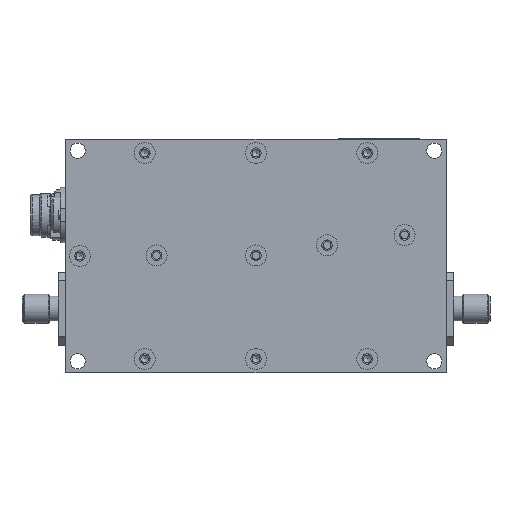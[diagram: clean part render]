
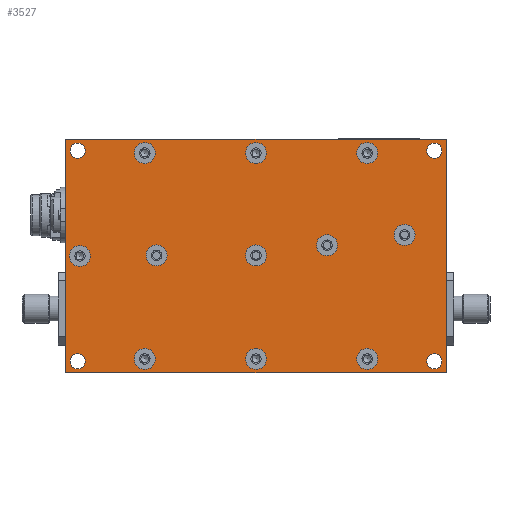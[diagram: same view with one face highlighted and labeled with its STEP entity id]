
A CAD part, front view. The second image highlights one B-rep face of the part: STEP entity #3527.
In plain terms, the highlighted planar face has unit normal (0, -1, 0).
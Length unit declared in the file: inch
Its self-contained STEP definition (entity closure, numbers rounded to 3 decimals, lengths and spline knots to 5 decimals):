
#2209=CARTESIAN_POINT('',(-1.625,-0.03,-1.0));
#2210=VERTEX_POINT('',#2209);
#2217=CARTESIAN_POINT('',(-1.625,-0.03,1.0));
#2218=VERTEX_POINT('',#2217);
#2219=CARTESIAN_POINT('',(-1.625,-0.03,1.0));
#2220=DIRECTION('',(0.0,0.0,-1.0));
#2221=VECTOR('',#2220,2.0);
#2222=LINE('',#2219,#2221);
#2223=EDGE_CURVE('',#2218,#2210,#2222,.T.);
#2258=CARTESIAN_POINT('',(1.625,-0.03,1.0));
#2259=VERTEX_POINT('',#2258);
#2266=CARTESIAN_POINT('',(1.625,-0.03,-1.0));
#2267=VERTEX_POINT('',#2266);
#2268=CARTESIAN_POINT('',(1.625,-0.03,-1.0));
#2269=DIRECTION('',(0.0,0.0,1.0));
#2270=VECTOR('',#2269,2.0);
#2271=LINE('',#2268,#2270);
#2272=EDGE_CURVE('',#2267,#2259,#2271,.T.);
#2934=CARTESIAN_POINT('',(0.09,-0.03,-0.88));
#2935=VERTEX_POINT('',#2934);
#2936=CARTESIAN_POINT('',(0.,-0.03,-0.88));
#2937=DIRECTION('',(0.0,1.0,0.0));
#2938=DIRECTION('',(1.0,0.0,0.0));
#2939=AXIS2_PLACEMENT_3D('',#2936,#2937,#2938);
#2940=CIRCLE('',#2939,0.09);
#2941=EDGE_CURVE('',#2935,#2935,#2940,.T.);
#2982=CARTESIAN_POINT('',(-1.415,-0.03,0.0));
#2983=VERTEX_POINT('',#2982);
#2984=CARTESIAN_POINT('',(-1.505,-0.03,0.0));
#2985=DIRECTION('',(0.0,1.0,0.0));
#2986=DIRECTION('',(1.0,0.0,0.0));
#2987=AXIS2_PLACEMENT_3D('',#2984,#2985,#2986);
#2988=CIRCLE('',#2987,0.09);
#2989=EDGE_CURVE('',#2983,#2983,#2988,.T.);
#3030=CARTESIAN_POINT('',(0.09,-0.03,0.005));
#3031=VERTEX_POINT('',#3030);
#3032=CARTESIAN_POINT('',(0.0,-0.03,0.005));
#3033=DIRECTION('',(0.0,1.0,0.0));
#3034=DIRECTION('',(1.0,0.0,0.0));
#3035=AXIS2_PLACEMENT_3D('',#3032,#3033,#3034);
#3036=CIRCLE('',#3035,0.09);
#3037=EDGE_CURVE('',#3031,#3031,#3036,.T.);
#3078=CARTESIAN_POINT('',(1.36,-0.03,0.18));
#3079=VERTEX_POINT('',#3078);
#3080=CARTESIAN_POINT('',(1.27,-0.03,0.18));
#3081=DIRECTION('',(0.0,1.0,0.0));
#3082=DIRECTION('',(1.0,0.0,0.0));
#3083=AXIS2_PLACEMENT_3D('',#3080,#3081,#3082);
#3084=CIRCLE('',#3083,0.09);
#3085=EDGE_CURVE('',#3079,#3079,#3084,.T.);
#3126=CARTESIAN_POINT('',(0.09,-0.03,0.88));
#3127=VERTEX_POINT('',#3126);
#3128=CARTESIAN_POINT('',(0.0,-0.03,0.88));
#3129=DIRECTION('',(0.0,1.0,0.0));
#3130=DIRECTION('',(1.0,0.0,0.0));
#3131=AXIS2_PLACEMENT_3D('',#3128,#3129,#3130);
#3132=CIRCLE('',#3131,0.09);
#3133=EDGE_CURVE('',#3127,#3127,#3132,.T.);
#3174=CARTESIAN_POINT('',(-0.86,-0.03,0.88));
#3175=VERTEX_POINT('',#3174);
#3176=CARTESIAN_POINT('',(-0.95,-0.03,0.88));
#3177=DIRECTION('',(0.0,1.0,0.0));
#3178=DIRECTION('',(1.0,0.0,0.0));
#3179=AXIS2_PLACEMENT_3D('',#3176,#3177,#3178);
#3180=CIRCLE('',#3179,0.09);
#3181=EDGE_CURVE('',#3175,#3175,#3180,.T.);
#3222=CARTESIAN_POINT('',(1.04,-0.03,0.88));
#3223=VERTEX_POINT('',#3222);
#3224=CARTESIAN_POINT('',(0.95,-0.03,0.88));
#3225=DIRECTION('',(0.0,1.0,0.0));
#3226=DIRECTION('',(1.0,0.0,0.0));
#3227=AXIS2_PLACEMENT_3D('',#3224,#3225,#3226);
#3228=CIRCLE('',#3227,0.09);
#3229=EDGE_CURVE('',#3223,#3223,#3228,.T.);
#3270=CARTESIAN_POINT('',(0.697,-0.03,0.0925));
#3271=VERTEX_POINT('',#3270);
#3272=CARTESIAN_POINT('',(0.607,-0.03,0.0925));
#3273=DIRECTION('',(0.0,1.0,0.0));
#3274=DIRECTION('',(1.0,0.0,0.0));
#3275=AXIS2_PLACEMENT_3D('',#3272,#3273,#3274);
#3276=CIRCLE('',#3275,0.09);
#3277=EDGE_CURVE('',#3271,#3271,#3276,.T.);
#3318=CARTESIAN_POINT('',(-0.76,-0.03,0.005));
#3319=VERTEX_POINT('',#3318);
#3320=CARTESIAN_POINT('',(-0.85,-0.03,0.005));
#3321=DIRECTION('',(0.0,1.0,0.0));
#3322=DIRECTION('',(1.0,0.0,0.0));
#3323=AXIS2_PLACEMENT_3D('',#3320,#3321,#3322);
#3324=CIRCLE('',#3323,0.09);
#3325=EDGE_CURVE('',#3319,#3319,#3324,.T.);
#3366=CARTESIAN_POINT('',(-0.86,-0.03,-0.88));
#3367=VERTEX_POINT('',#3366);
#3368=CARTESIAN_POINT('',(-0.95,-0.03,-0.88));
#3369=DIRECTION('',(0.0,1.0,0.0));
#3370=DIRECTION('',(1.0,0.0,0.0));
#3371=AXIS2_PLACEMENT_3D('',#3368,#3369,#3370);
#3372=CIRCLE('',#3371,0.09);
#3373=EDGE_CURVE('',#3367,#3367,#3372,.T.);
#3414=CARTESIAN_POINT('',(1.04,-0.03,-0.88));
#3415=VERTEX_POINT('',#3414);
#3416=CARTESIAN_POINT('',(0.95,-0.03,-0.88));
#3417=DIRECTION('',(0.0,1.0,0.0));
#3418=DIRECTION('',(1.0,0.0,0.0));
#3419=AXIS2_PLACEMENT_3D('',#3416,#3417,#3418);
#3420=CIRCLE('',#3419,0.09);
#3421=EDGE_CURVE('',#3415,#3415,#3420,.T.);
#3429=CARTESIAN_POINT('',(0.0,-0.03,0.0));
#3430=DIRECTION('',(0.0,1.0,0.0));
#3431=DIRECTION('',(0.0,0.0,1.0));
#3432=AXIS2_PLACEMENT_3D('',#3429,#3430,#3431);
#3433=PLANE('',#3432);
#3434=CARTESIAN_POINT('',(-1.625,-0.03,-1.0));
#3435=DIRECTION('',(1.0,0.0,0.0));
#3436=VECTOR('',#3435,3.25);
#3437=LINE('',#3434,#3436);
#3438=EDGE_CURVE('',#2210,#2267,#3437,.T.);
#3439=ORIENTED_EDGE('',*,*,#3438,.T.);
#3440=ORIENTED_EDGE('',*,*,#2272,.T.);
#3441=CARTESIAN_POINT('',(1.625,-0.03,1.0));
#3442=DIRECTION('',(-1.0,0.0,0.0));
#3443=VECTOR('',#3442,3.25);
#3444=LINE('',#3441,#3443);
#3445=EDGE_CURVE('',#2259,#2218,#3444,.T.);
#3446=ORIENTED_EDGE('',*,*,#3445,.T.);
#3447=ORIENTED_EDGE('',*,*,#2223,.T.);
#3448=EDGE_LOOP('',(#3439,#3440,#3446,#3447));
#3449=FACE_OUTER_BOUND('',#3448,.T.);
#3450=ORIENTED_EDGE('',*,*,#2941,.T.);
#3451=EDGE_LOOP('',(#3450));
#3452=FACE_BOUND('',#3451,.T.);
#3453=ORIENTED_EDGE('',*,*,#2989,.T.);
#3454=EDGE_LOOP('',(#3453));
#3455=FACE_BOUND('',#3454,.T.);
#3456=ORIENTED_EDGE('',*,*,#3037,.T.);
#3457=EDGE_LOOP('',(#3456));
#3458=FACE_BOUND('',#3457,.T.);
#3459=ORIENTED_EDGE('',*,*,#3085,.T.);
#3460=EDGE_LOOP('',(#3459));
#3461=FACE_BOUND('',#3460,.T.);
#3462=ORIENTED_EDGE('',*,*,#3133,.T.);
#3463=EDGE_LOOP('',(#3462));
#3464=FACE_BOUND('',#3463,.T.);
#3465=ORIENTED_EDGE('',*,*,#3181,.T.);
#3466=EDGE_LOOP('',(#3465));
#3467=FACE_BOUND('',#3466,.T.);
#3468=ORIENTED_EDGE('',*,*,#3229,.T.);
#3469=EDGE_LOOP('',(#3468));
#3470=FACE_BOUND('',#3469,.T.);
#3471=ORIENTED_EDGE('',*,*,#3277,.T.);
#3472=EDGE_LOOP('',(#3471));
#3473=FACE_BOUND('',#3472,.T.);
#3474=ORIENTED_EDGE('',*,*,#3325,.T.);
#3475=EDGE_LOOP('',(#3474));
#3476=FACE_BOUND('',#3475,.T.);
#3477=ORIENTED_EDGE('',*,*,#3373,.T.);
#3478=EDGE_LOOP('',(#3477));
#3479=FACE_BOUND('',#3478,.T.);
#3480=ORIENTED_EDGE('',*,*,#3421,.T.);
#3481=EDGE_LOOP('',(#3480));
#3482=FACE_BOUND('',#3481,.T.);
#3483=CARTESIAN_POINT('',(1.5895,-0.03,-0.9));
#3484=VERTEX_POINT('',#3483);
#3485=CARTESIAN_POINT('',(1.525,-0.03,-0.9));
#3486=DIRECTION('',(0.0,1.0,0.0));
#3487=DIRECTION('',(-1.0,0.0,0.0));
#3488=AXIS2_PLACEMENT_3D('',#3485,#3486,#3487);
#3489=CIRCLE('',#3488,0.0645);
#3490=EDGE_CURVE('',#3484,#3484,#3489,.T.);
#3491=ORIENTED_EDGE('',*,*,#3490,.T.);
#3492=EDGE_LOOP('',(#3491));
#3493=FACE_BOUND('',#3492,.T.);
#3494=CARTESIAN_POINT('',(-1.4605,-0.03,0.9));
#3495=VERTEX_POINT('',#3494);
#3496=CARTESIAN_POINT('',(-1.525,-0.03,0.9));
#3497=DIRECTION('',(0.0,1.0,0.0));
#3498=DIRECTION('',(-1.0,0.0,0.0));
#3499=AXIS2_PLACEMENT_3D('',#3496,#3497,#3498);
#3500=CIRCLE('',#3499,0.0645);
#3501=EDGE_CURVE('',#3495,#3495,#3500,.T.);
#3502=ORIENTED_EDGE('',*,*,#3501,.T.);
#3503=EDGE_LOOP('',(#3502));
#3504=FACE_BOUND('',#3503,.T.);
#3505=CARTESIAN_POINT('',(-1.4605,-0.03,-0.9));
#3506=VERTEX_POINT('',#3505);
#3507=CARTESIAN_POINT('',(-1.525,-0.03,-0.9));
#3508=DIRECTION('',(0.0,1.0,0.0));
#3509=DIRECTION('',(-1.0,0.0,0.0));
#3510=AXIS2_PLACEMENT_3D('',#3507,#3508,#3509);
#3511=CIRCLE('',#3510,0.0645);
#3512=EDGE_CURVE('',#3506,#3506,#3511,.T.);
#3513=ORIENTED_EDGE('',*,*,#3512,.T.);
#3514=EDGE_LOOP('',(#3513));
#3515=FACE_BOUND('',#3514,.T.);
#3516=CARTESIAN_POINT('',(1.5895,-0.03,0.9));
#3517=VERTEX_POINT('',#3516);
#3518=CARTESIAN_POINT('',(1.525,-0.03,0.9));
#3519=DIRECTION('',(0.0,1.0,0.0));
#3520=DIRECTION('',(-1.0,0.0,0.0));
#3521=AXIS2_PLACEMENT_3D('',#3518,#3519,#3520);
#3522=CIRCLE('',#3521,0.0645);
#3523=EDGE_CURVE('',#3517,#3517,#3522,.T.);
#3524=ORIENTED_EDGE('',*,*,#3523,.T.);
#3525=EDGE_LOOP('',(#3524));
#3526=FACE_BOUND('',#3525,.T.);
#3527=ADVANCED_FACE('',(#3449,#3452,#3455,#3458,#3461,#3464,#3467,#3470,#3473,#3476,#3479,#3482,#3493,#3504,#3515,#3526),#3433,.F.);
